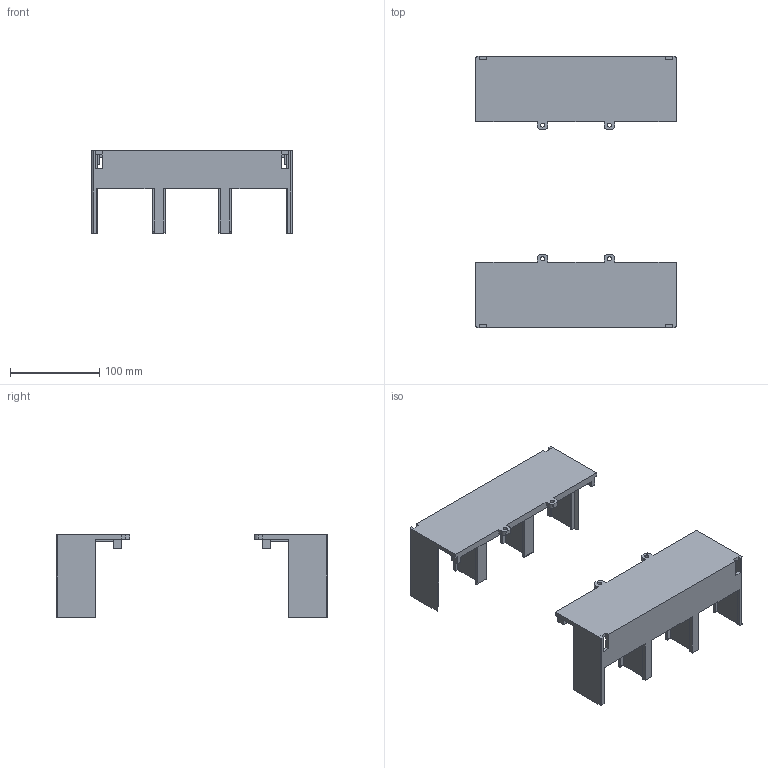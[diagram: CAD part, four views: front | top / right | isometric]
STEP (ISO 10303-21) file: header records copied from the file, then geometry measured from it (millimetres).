
FILE_DESCRIPTION (( 'STEP AP214' ), '1' );
FILE_NAME ('ÂÀ57-39 Êðûøêà êëåììíàÿ äëÿ ïåðåäíåãî ïðèñîåäèíåíèÿ.STEP', '2023-07-14T06:26:04', ( '' ), ( '' ), 'SwSTEP 2.0', 'SolidWorks 2018', '' );
FILE_SCHEMA (( 'AUTOMOTIVE_DESIGN' ));
Length unit declared in the file: millimetre
Products named in the file (1): ÂÀ57-39 Êðûøêà êëåììíàÿ äëÿ ïåðåäíåãî ïðèñîåäèíåíèÿ
Bounding box: 224.8 x 304.17 x 92.4 mm (x, y, z)
Volume: 310779.7 mm3; surface area: 186389.8 mm2
Topology: 2 solids, 2 shells, 276 faces, 824 edges, 544 vertices
Faces by surface type: plane 216, cylinder 60
Entity records: 12283 total; most frequent: CARTESIAN_POINT 1669, ORIENTED_EDGE 1648, DIRECTION 1482, EDGE_CURVE 824, VECTOR 704, LINE 704, VERTEX_POINT 544, AXIS2_PLACEMENT_3D 389
